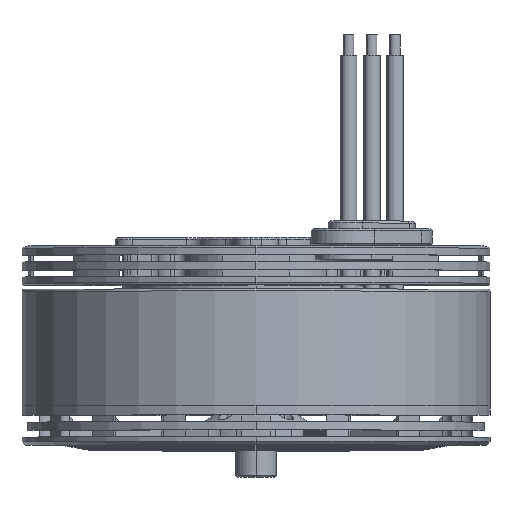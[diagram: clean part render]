
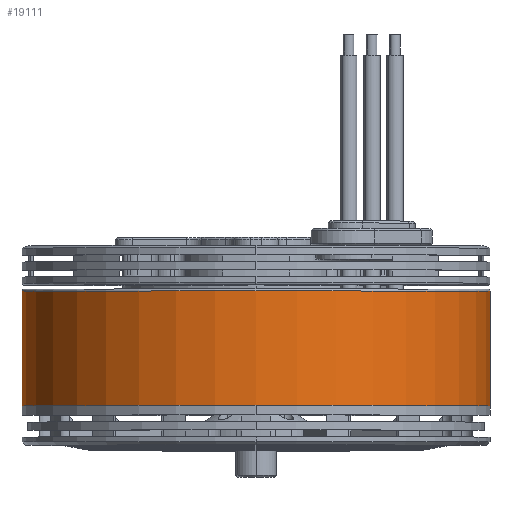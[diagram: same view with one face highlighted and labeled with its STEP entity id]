
A CAD part, top view. The second image highlights one B-rep face of the part: STEP entity #19111.
In plain terms, the highlighted cylindrical face has radius 34.35 mm (diameter 68.7 mm), a partial arc.
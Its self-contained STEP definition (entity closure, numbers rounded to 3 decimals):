
#9816 = VECTOR ( 'NONE', #80318, 1000. ) ;
#10971 = VERTEX_POINT ( 'NONE', #103872 ) ;
#13884 = FACE_OUTER_BOUND ( 'NONE', #32475, .T. ) ;
#13951 = EDGE_CURVE ( 'NONE', #10971, #60614, #80094, .T. ) ;
#16603 = DIRECTION ( 'NONE',  ( -1., 0., 0. ) ) ;
#17759 = DIRECTION ( 'NONE',  ( 1., 0., 0. ) ) ;
#19111 = ADVANCED_FACE ( 'NONE', ( #13884 ), #72939, .T. ) ;
#20515 = CARTESIAN_POINT ( 'NONE',  ( -34.35, -5.1, 0. ) ) ;
#20966 = AXIS2_PLACEMENT_3D ( 'NONE', #59609, #61806, #77843 ) ;
#23377 = CARTESIAN_POINT ( 'NONE',  ( 34.35, -22.2, 0. ) ) ;
#27982 = VERTEX_POINT ( 'NONE', #64323 ) ;
#32475 = EDGE_LOOP ( 'NONE', ( #32480, #71375, #87230, #99166 ) ) ;
#32480 = ORIENTED_EDGE ( 'NONE', *, *, #54572, .F. ) ;
#34245 = DIRECTION ( 'NONE',  ( 0., -1., 0. ) ) ;
#39866 = CARTESIAN_POINT ( 'NONE',  ( 0., -5.4, 0. ) ) ;
#40962 = CIRCLE ( 'NONE', #104387, 34.35 ) ;
#46093 = CARTESIAN_POINT ( 'NONE',  ( -34.35, -22.2, 0. ) ) ;
#47961 = EDGE_CURVE ( 'NONE', #60614, #91880, #68535, .T. ) ;
#50576 = LINE ( 'NONE', #101351, #9816 ) ;
#54572 = EDGE_CURVE ( 'NONE', #27982, #91880, #50576, .T. ) ;
#55818 = CARTESIAN_POINT ( 'NONE',  ( 0., -5.1, 0. ) ) ;
#59609 = CARTESIAN_POINT ( 'NONE',  ( 0., -22.2, 0. ) ) ;
#60614 = VERTEX_POINT ( 'NONE', #46093 ) ;
#61806 = DIRECTION ( 'NONE',  ( 0., 1., 0. ) ) ;
#64323 = CARTESIAN_POINT ( 'NONE',  ( 34.35, -5.4, 0. ) ) ;
#68535 = CIRCLE ( 'NONE', #20966, 34.35 ) ;
#71375 = ORIENTED_EDGE ( 'NONE', *, *, #108864, .T. ) ;
#72939 = CYLINDRICAL_SURFACE ( 'NONE', #93238, 34.35 ) ;
#77843 = DIRECTION ( 'NONE',  ( 1., 0., 0. ) ) ;
#80094 = LINE ( 'NONE', #20515, #91707 ) ;
#80318 = DIRECTION ( 'NONE',  ( 0., -1., 0. ) ) ;
#87230 = ORIENTED_EDGE ( 'NONE', *, *, #13951, .T. ) ;
#88399 = DIRECTION ( 'NONE',  ( 0., -1., 0. ) ) ;
#91707 = VECTOR ( 'NONE', #88399, 1000. ) ;
#91880 = VERTEX_POINT ( 'NONE', #23377 ) ;
#93238 = AXIS2_PLACEMENT_3D ( 'NONE', #55818, #34245, #16603 ) ;
#99166 = ORIENTED_EDGE ( 'NONE', *, *, #47961, .T. ) ;
#101351 = CARTESIAN_POINT ( 'NONE',  ( 34.35, -5.1, 0. ) ) ;
#102175 = DIRECTION ( 'NONE',  ( 0., -1., 0. ) ) ;
#103872 = CARTESIAN_POINT ( 'NONE',  ( -34.35, -5.4, 0. ) ) ;
#104387 = AXIS2_PLACEMENT_3D ( 'NONE', #39866, #102175, #17759 ) ;
#108864 = EDGE_CURVE ( 'NONE', #27982, #10971, #40962, .T. ) ;
